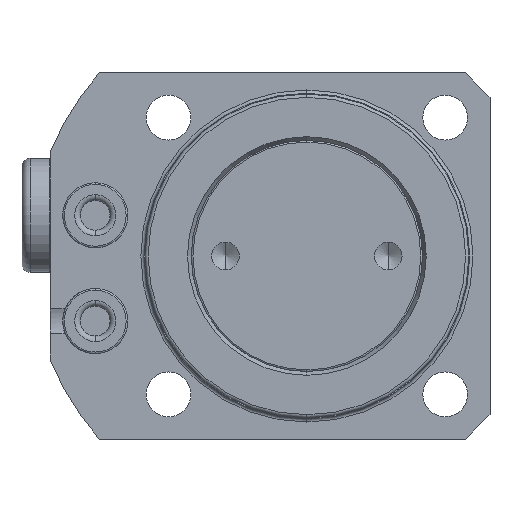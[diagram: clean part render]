
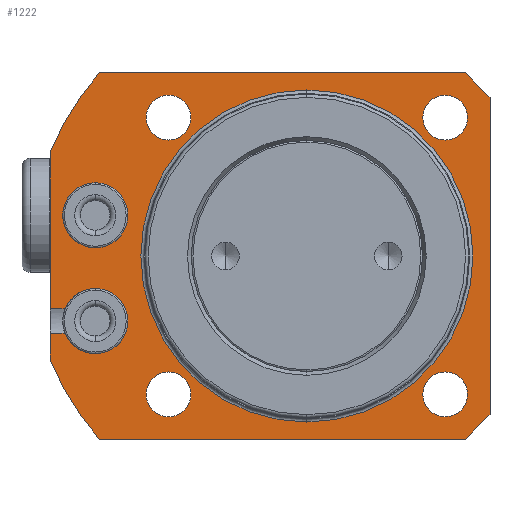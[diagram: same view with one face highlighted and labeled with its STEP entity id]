
A CAD part, front view. The second image highlights one B-rep face of the part: STEP entity #1222.
In plain terms, the highlighted planar face has unit normal (0, -1, 0).
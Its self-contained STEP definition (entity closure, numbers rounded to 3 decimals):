
#458=PLANE('',#4754);
#530=FACE_BOUND('',#1791,.T.);
#531=FACE_BOUND('',#1792,.T.);
#532=FACE_BOUND('',#1793,.T.);
#533=FACE_BOUND('',#1794,.T.);
#534=FACE_BOUND('',#1795,.T.);
#535=FACE_BOUND('',#1796,.T.);
#536=FACE_BOUND('',#1797,.T.);
#822=LINE('',#7830,#1016);
#823=LINE('',#7833,#1017);
#824=LINE('',#7835,#1018);
#825=LINE('',#7839,#1019);
#826=LINE('',#7841,#1020);
#827=LINE('',#7843,#1021);
#828=LINE('',#7845,#1022);
#829=LINE('',#7847,#1023);
#830=LINE('',#7851,#1024);
#1016=VECTOR('',#5915,1.);
#1017=VECTOR('',#5918,1.);
#1018=VECTOR('',#5919,1.);
#1019=VECTOR('',#5922,1.);
#1020=VECTOR('',#5923,1.);
#1021=VECTOR('',#5924,1.);
#1022=VECTOR('',#5925,1.);
#1023=VECTOR('',#5926,1.);
#1024=VECTOR('',#5929,1.);
#1222=ADVANCED_FACE('',(#530,#531,#532,#533,#534,#535,#536),#458,.T.);
#1791=EDGE_LOOP('',(#2645,#2646,#2647,#2648,#2649,#2650,#2651,#2652,#2653,
#2654,#2655,#2656,#2657,#2658));
#1792=EDGE_LOOP('',(#2659,#2660));
#1793=EDGE_LOOP('',(#2661,#2662));
#1794=EDGE_LOOP('',(#2663,#2664));
#1795=EDGE_LOOP('',(#2665,#2666));
#1796=EDGE_LOOP('',(#2667,#2668));
#1797=EDGE_LOOP('',(#2669,#2670));
#2645=ORIENTED_EDGE('',*,*,#3860,.F.);
#2646=ORIENTED_EDGE('',*,*,#3735,.F.);
#2647=ORIENTED_EDGE('',*,*,#3861,.F.);
#2648=ORIENTED_EDGE('',*,*,#3737,.F.);
#2649=ORIENTED_EDGE('',*,*,#3862,.F.);
#2650=ORIENTED_EDGE('',*,*,#3863,.T.);
#2651=ORIENTED_EDGE('',*,*,#3864,.T.);
#2652=ORIENTED_EDGE('',*,*,#3865,.T.);
#2653=ORIENTED_EDGE('',*,*,#3866,.T.);
#2654=ORIENTED_EDGE('',*,*,#3867,.T.);
#2655=ORIENTED_EDGE('',*,*,#3868,.T.);
#2656=ORIENTED_EDGE('',*,*,#3869,.T.);
#2657=ORIENTED_EDGE('',*,*,#3870,.T.);
#2658=ORIENTED_EDGE('',*,*,#3871,.T.);
#2659=ORIENTED_EDGE('',*,*,#3872,.F.);
#2660=ORIENTED_EDGE('',*,*,#3731,.F.);
#2661=ORIENTED_EDGE('',*,*,#3759,.F.);
#2662=ORIENTED_EDGE('',*,*,#3873,.F.);
#2663=ORIENTED_EDGE('',*,*,#3767,.F.);
#2664=ORIENTED_EDGE('',*,*,#3874,.F.);
#2665=ORIENTED_EDGE('',*,*,#3775,.F.);
#2666=ORIENTED_EDGE('',*,*,#3875,.F.);
#2667=ORIENTED_EDGE('',*,*,#3783,.F.);
#2668=ORIENTED_EDGE('',*,*,#3876,.F.);
#2669=ORIENTED_EDGE('',*,*,#3877,.F.);
#2670=ORIENTED_EDGE('',*,*,#3837,.F.);
#3259=VERTEX_POINT('',#7394);
#3260=VERTEX_POINT('',#7396);
#3263=VERTEX_POINT('',#7403);
#3264=VERTEX_POINT('',#7405);
#3265=VERTEX_POINT('',#7410);
#3266=VERTEX_POINT('',#7412);
#3285=VERTEX_POINT('',#7529);
#3286=VERTEX_POINT('',#7530);
#3293=VERTEX_POINT('',#7556);
#3294=VERTEX_POINT('',#7557);
#3301=VERTEX_POINT('',#7583);
#3302=VERTEX_POINT('',#7584);
#3309=VERTEX_POINT('',#7610);
#3310=VERTEX_POINT('',#7611);
#3351=VERTEX_POINT('',#7749);
#3352=VERTEX_POINT('',#7751);
#3369=VERTEX_POINT('',#7831);
#3370=VERTEX_POINT('',#7834);
#3371=VERTEX_POINT('',#7836);
#3372=VERTEX_POINT('',#7838);
#3373=VERTEX_POINT('',#7840);
#3374=VERTEX_POINT('',#7842);
#3375=VERTEX_POINT('',#7844);
#3376=VERTEX_POINT('',#7846);
#3377=VERTEX_POINT('',#7848);
#3378=VERTEX_POINT('',#7850);
#3731=EDGE_CURVE('',#3259,#3260,#4182,.T.);
#3735=EDGE_CURVE('',#3263,#3264,#4184,.T.);
#3737=EDGE_CURVE('',#3265,#3266,#4185,.T.);
#3759=EDGE_CURVE('',#3285,#3286,#4191,.T.);
#3767=EDGE_CURVE('',#3293,#3294,#4194,.T.);
#3775=EDGE_CURVE('',#3301,#3302,#4197,.T.);
#3783=EDGE_CURVE('',#3309,#3310,#4200,.T.);
#3837=EDGE_CURVE('',#3351,#3352,#4233,.T.);
#3860=EDGE_CURVE('',#3264,#3369,#822,.T.);
#3861=EDGE_CURVE('',#3266,#3263,#4243,.T.);
#3862=EDGE_CURVE('',#3370,#3265,#823,.T.);
#3863=EDGE_CURVE('',#3370,#3371,#824,.T.);
#3864=EDGE_CURVE('',#3371,#3372,#4244,.T.);
#3865=EDGE_CURVE('',#3372,#3373,#825,.T.);
#3866=EDGE_CURVE('',#3373,#3374,#826,.T.);
#3867=EDGE_CURVE('',#3374,#3375,#827,.T.);
#3868=EDGE_CURVE('',#3375,#3376,#828,.T.);
#3869=EDGE_CURVE('',#3376,#3377,#829,.T.);
#3870=EDGE_CURVE('',#3377,#3378,#4245,.T.);
#3871=EDGE_CURVE('',#3378,#3369,#830,.T.);
#3872=EDGE_CURVE('',#3260,#3259,#4246,.T.);
#3873=EDGE_CURVE('',#3286,#3285,#4247,.T.);
#3874=EDGE_CURVE('',#3294,#3293,#4248,.T.);
#3875=EDGE_CURVE('',#3302,#3301,#4249,.T.);
#3876=EDGE_CURVE('',#3310,#3309,#4250,.T.);
#3877=EDGE_CURVE('',#3352,#3351,#4251,.T.);
#4182=CIRCLE('',#4651,4.);
#4184=CIRCLE('',#4654,4.);
#4185=CIRCLE('',#4655,4.);
#4191=CIRCLE('',#4668,2.75);
#4194=CIRCLE('',#4673,2.75);
#4197=CIRCLE('',#4678,2.75);
#4200=CIRCLE('',#4683,2.75);
#4233=CIRCLE('',#4730,20.4);
#4243=CIRCLE('',#4745,4.);
#4244=CIRCLE('',#4746,34.);
#4245=CIRCLE('',#4747,34.);
#4246=CIRCLE('',#4748,4.);
#4247=CIRCLE('',#4749,2.75);
#4248=CIRCLE('',#4750,2.75);
#4249=CIRCLE('',#4751,2.75);
#4250=CIRCLE('',#4752,2.75);
#4251=CIRCLE('',#4753,20.4);
#4651=AXIS2_PLACEMENT_3D('',#7395,#5674,#5675);
#4654=AXIS2_PLACEMENT_3D('',#7404,#5682,#5683);
#4655=AXIS2_PLACEMENT_3D('',#7411,#5684,#5685);
#4668=AXIS2_PLACEMENT_3D('',#7528,#5723,#5724);
#4673=AXIS2_PLACEMENT_3D('',#7555,#5737,#5738);
#4678=AXIS2_PLACEMENT_3D('',#7582,#5751,#5752);
#4683=AXIS2_PLACEMENT_3D('',#7609,#5765,#5766);
#4730=AXIS2_PLACEMENT_3D('',#7750,#5879,#5880);
#4745=AXIS2_PLACEMENT_3D('',#7832,#5916,#5917);
#4746=AXIS2_PLACEMENT_3D('',#7837,#5920,#5921);
#4747=AXIS2_PLACEMENT_3D('',#7849,#5927,#5928);
#4748=AXIS2_PLACEMENT_3D('',#7852,#5930,#5931);
#4749=AXIS2_PLACEMENT_3D('',#7853,#5932,#5933);
#4750=AXIS2_PLACEMENT_3D('',#7854,#5934,#5935);
#4751=AXIS2_PLACEMENT_3D('',#7855,#5936,#5937);
#4752=AXIS2_PLACEMENT_3D('',#7856,#5938,#5939);
#4753=AXIS2_PLACEMENT_3D('',#7857,#5940,#5941);
#4754=AXIS2_PLACEMENT_3D('',#7858,#5942,#5943);
#5674=DIRECTION('',(0.,-1.,0.));
#5675=DIRECTION('',(0.,0.,-1.));
#5682=DIRECTION('',(0.,-1.,0.));
#5683=DIRECTION('',(0.,0.,-1.));
#5684=DIRECTION('',(0.,-1.,0.));
#5685=DIRECTION('',(0.,0.,-1.));
#5723=DIRECTION('',(0.,-1.,0.));
#5724=DIRECTION('',(0.,0.,-1.));
#5737=DIRECTION('',(0.,-1.,0.));
#5738=DIRECTION('',(0.,0.,-1.));
#5751=DIRECTION('',(0.,-1.,0.));
#5752=DIRECTION('',(0.,0.,-1.));
#5765=DIRECTION('',(0.,-1.,0.));
#5766=DIRECTION('',(0.,0.,-1.));
#5879=DIRECTION('',(0.,-1.,0.));
#5880=DIRECTION('',(0.,0.,-1.));
#5915=DIRECTION('',(-1.,0.,0.));
#5916=DIRECTION('',(0.,-1.,0.));
#5917=DIRECTION('',(0.,0.,-1.));
#5918=DIRECTION('',(1.,0.,0.));
#5919=DIRECTION('',(0.,0.,-1.));
#5920=DIRECTION('',(0.,-1.,0.));
#5921=DIRECTION('',(0.,0.,-1.));
#5922=DIRECTION('',(1.,0.,0.));
#5923=DIRECTION('',(0.707,0.,0.707));
#5924=DIRECTION('',(0.,0.,1.));
#5925=DIRECTION('',(-0.707,0.,0.707));
#5926=DIRECTION('',(-1.,0.,0.));
#5927=DIRECTION('',(0.,-1.,0.));
#5928=DIRECTION('',(0.,0.,-1.));
#5929=DIRECTION('',(0.,0.,-1.));
#5930=DIRECTION('',(0.,-1.,0.));
#5931=DIRECTION('',(0.,0.,-1.));
#5932=DIRECTION('',(0.,-1.,0.));
#5933=DIRECTION('',(0.,0.,-1.));
#5934=DIRECTION('',(0.,-1.,0.));
#5935=DIRECTION('',(0.,0.,-1.));
#5936=DIRECTION('',(0.,-1.,0.));
#5937=DIRECTION('',(0.,0.,-1.));
#5938=DIRECTION('',(0.,-1.,0.));
#5939=DIRECTION('',(0.,0.,-1.));
#5940=DIRECTION('',(0.,-1.,0.));
#5941=DIRECTION('',(0.,0.,-1.));
#5942=DIRECTION('',(0.,-1.,0.));
#5943=DIRECTION('',(0.,0.,1.));
#7394=CARTESIAN_POINT('',(-26.,31.886,9.));
#7395=CARTESIAN_POINT('',(-26.,31.886,5.));
#7396=CARTESIAN_POINT('',(-26.,31.886,1.));
#7403=CARTESIAN_POINT('',(-26.,31.886,-4.));
#7404=CARTESIAN_POINT('',(-26.,31.886,-8.));
#7405=CARTESIAN_POINT('',(-29.7,31.886,-6.48));
#7410=CARTESIAN_POINT('',(-29.7,31.886,-9.52));
#7411=CARTESIAN_POINT('',(-26.,31.886,-8.));
#7412=CARTESIAN_POINT('',(-26.,31.886,-12.));
#7528=CARTESIAN_POINT('',(-17.,31.886,-17.));
#7529=CARTESIAN_POINT('',(-17.,31.886,-14.25));
#7530=CARTESIAN_POINT('',(-17.,31.886,-19.75));
#7555=CARTESIAN_POINT('',(17.,31.886,-17.));
#7556=CARTESIAN_POINT('',(17.,31.886,-14.25));
#7557=CARTESIAN_POINT('',(17.,31.886,-19.75));
#7582=CARTESIAN_POINT('',(17.,31.886,17.));
#7583=CARTESIAN_POINT('',(17.,31.886,19.75));
#7584=CARTESIAN_POINT('',(17.,31.886,14.25));
#7609=CARTESIAN_POINT('',(-17.,31.886,17.));
#7610=CARTESIAN_POINT('',(-17.,31.886,19.75));
#7611=CARTESIAN_POINT('',(-17.,31.886,14.25));
#7749=CARTESIAN_POINT('',(0.,31.886,20.4));
#7750=CARTESIAN_POINT('',(0.,31.886,0.));
#7751=CARTESIAN_POINT('',(0.,31.886,-20.4));
#7830=CARTESIAN_POINT('',(-26.5,31.886,-6.48));
#7831=CARTESIAN_POINT('',(-31.5,31.886,-6.48));
#7832=CARTESIAN_POINT('',(-26.,31.886,-8.));
#7833=CARTESIAN_POINT('',(-26.5,31.886,-9.52));
#7834=CARTESIAN_POINT('',(-31.5,31.886,-9.52));
#7835=CARTESIAN_POINT('',(-31.5,31.886,0.));
#7836=CARTESIAN_POINT('',(-31.5,31.886,-12.796));
#7837=CARTESIAN_POINT('',(0.,31.886,0.));
#7838=CARTESIAN_POINT('',(-25.49,31.886,-22.5));
#7839=CARTESIAN_POINT('',(20.4,31.886,-22.5));
#7840=CARTESIAN_POINT('',(19.5,31.886,-22.5));
#7841=CARTESIAN_POINT('',(31.2,31.886,-10.8));
#7842=CARTESIAN_POINT('',(22.5,31.886,-19.5));
#7843=CARTESIAN_POINT('',(22.5,31.886,0.));
#7844=CARTESIAN_POINT('',(22.5,31.886,19.5));
#7845=CARTESIAN_POINT('',(31.2,31.886,10.8));
#7846=CARTESIAN_POINT('',(19.5,31.886,22.5));
#7847=CARTESIAN_POINT('',(20.4,31.886,22.5));
#7848=CARTESIAN_POINT('',(-25.49,31.886,22.5));
#7849=CARTESIAN_POINT('',(0.,31.886,0.));
#7850=CARTESIAN_POINT('',(-31.5,31.886,12.796));
#7851=CARTESIAN_POINT('',(-31.5,31.886,0.));
#7852=CARTESIAN_POINT('',(-26.,31.886,5.));
#7853=CARTESIAN_POINT('',(-17.,31.886,-17.));
#7854=CARTESIAN_POINT('',(17.,31.886,-17.));
#7855=CARTESIAN_POINT('',(17.,31.886,17.));
#7856=CARTESIAN_POINT('',(-17.,31.886,17.));
#7857=CARTESIAN_POINT('',(0.,31.886,0.));
#7858=CARTESIAN_POINT('',(20.4,31.886,0.));
